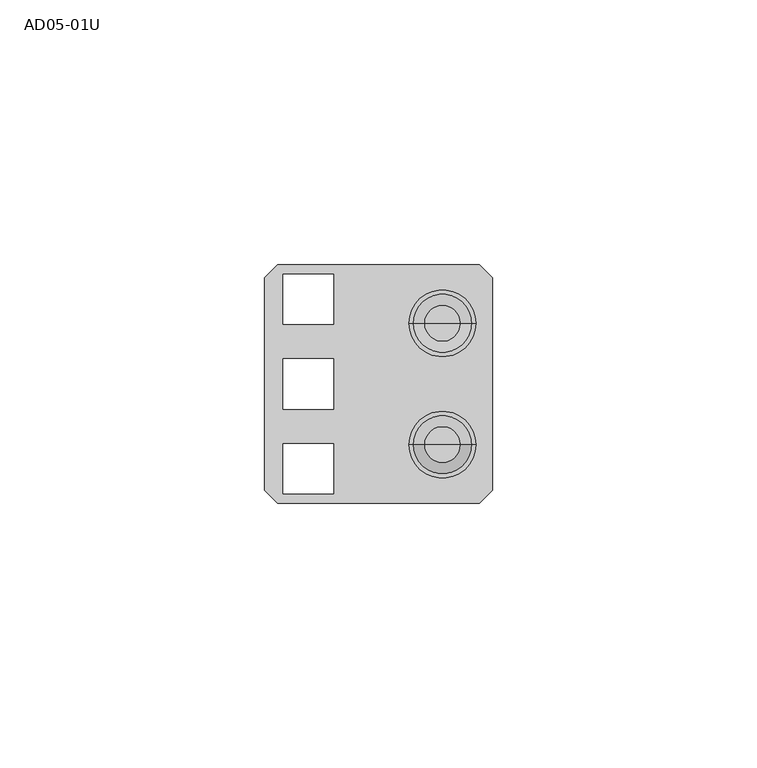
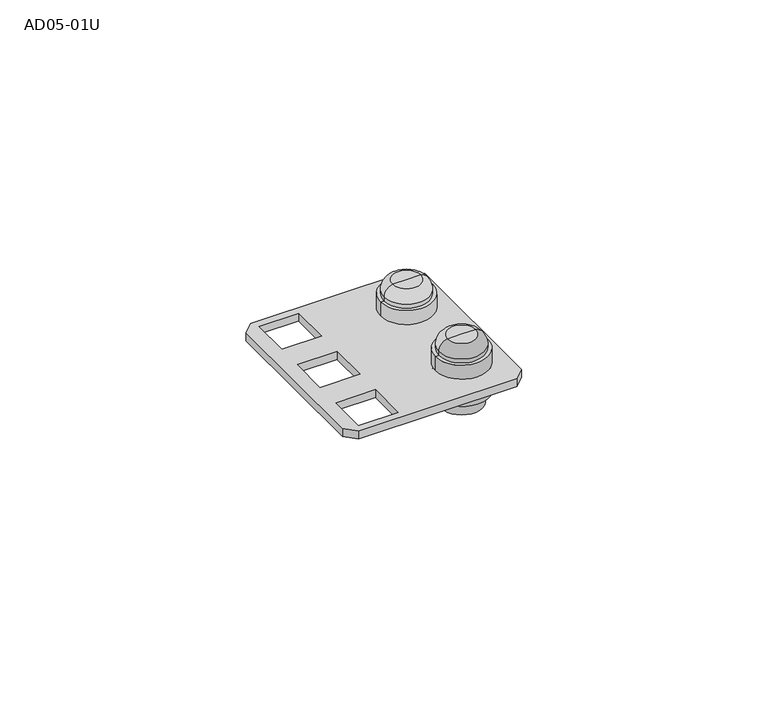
"""IFC4 building model written with IfcOpenShell, lengths in millimetres: proxy geometry, Переходник : AD05-01U."""

import ifcopenshell
import ifcopenshell.guid

model = None  # the IFC model being written
_history = None  # IfcOwnerHistory: only IFC2X3 demands one
_inside = {}  # id of a spatial element -> (the spatial element, [elements in it])
_under = {}  # id of a project, library or spatial element -> (it, [spatial elements below it])
_declared = {}  # id of a project -> (the project, [libraries it declares])
_typed = {}  # id of a type object -> (the type object, [elements of that type])
_made_of = {}  # id of a material, layer set ... -> (it, [elements and type objects made of it])


def new_model(schema):
    """Start an empty IFC model of exactly this schema.

    Asked for "IFC4X3", IfcOpenShell would pick the latest addendum, in which some entities
    have other attributes; the version numbers below select the first issue.
    IFC2X3 requires an IfcOwnerHistory on every rooted entity: one is made here for all.
    """
    global model, _history
    if schema == "IFC4X3":
        model = ifcopenshell.file(schema_version=(4, 3, 0, 0))
    else:
        model = ifcopenshell.file(schema=schema)
    _inside.clear()
    _under.clear()
    _declared.clear()
    _typed.clear()
    _made_of.clear()
    _history = None
    if model.schema == "IFC2X3":
        org = make("IfcOrganization", Name="unknown")
        user = make(
            "IfcPersonAndOrganization",
            ThePerson=make("IfcPerson", FamilyName="unknown"),
            TheOrganization=org,
        )
        app = make(
            "IfcApplication",
            ApplicationDeveloper=org,
            Version="unknown",
            ApplicationFullName="unknown",
            ApplicationIdentifier="unknown",
        )
        _history = make(
            "IfcOwnerHistory",
            OwningUser=user,
            OwningApplication=app,
            ChangeAction="ADDED",
            CreationDate=0,
        )
    return model


def make(cls, **values):
    """One entity of the class cls with the attributes given. An attribute that is None is left unset."""
    return model.create_entity(
        cls, **{name: value for name, value in values.items() if value is not None}
    )


def rooted(cls, **values):
    """An entity with a GlobalId (a new one), such as an element, a storey or a relation."""
    return make(cls, GlobalId=ifcopenshell.guid.new(), OwnerHistory=_history, **values)


def si_unit(unit_type, name, prefix=None):
    """IfcSIUnit, for example si_unit("LENGTHUNIT", "METRE", prefix="MILLI")."""
    return make("IfcSIUnit", UnitType=unit_type, Prefix=prefix, Name=name)


def assignment(units):
    """IfcUnitAssignment: the units of a project."""
    return None if units is None else make("IfcUnitAssignment", Units=units)


def point(xyz):
    """IfcCartesianPoint."""
    return None if xyz is None else make("IfcCartesianPoint", Coordinates=xyz)


def direction(xyz):
    """IfcDirection."""
    return None if xyz is None else make("IfcDirection", DirectionRatios=xyz)


def frame(location, z_axis=None, x_axis=None):
    """IfcAxis2Placement3D, a coordinate frame: its origin and axes. An axis left out is left unset."""
    return make(
        "IfcAxis2Placement3D",
        Location=point(location),
        Axis=direction(z_axis),
        RefDirection=direction(x_axis),
    )


def frame_2d(location, x_axis=None):
    """IfcAxis2Placement2D, a coordinate frame in the plane: its origin and x axis."""
    return make(
        "IfcAxis2Placement2D", Location=point(location), RefDirection=direction(x_axis)
    )


def origin():
    """The frame at (0, 0, 0) with its axes left unset."""
    return frame((0.0, 0.0, 0.0))


def origin_with_axes():
    """The frame at (0, 0, 0) with the z axis (0, 0, 1) and the x axis (1, 0, 0) written out."""
    return frame((0.0, 0.0, 0.0), z_axis=(0.0, 0.0, 1.0), x_axis=(1.0, 0.0, 0.0))


def place(relative_to, where):
    """IfcLocalPlacement: puts the frame where relative to a parent placement (None: the world)."""
    return make(
        "IfcLocalPlacement", PlacementRelTo=relative_to, RelativePlacement=where
    )


def context(
    kind, dimensions, precision=None, world=None, true_north=None, identifier=None
):
    """IfcGeometricRepresentationContext, for example the 3D "Model" context."""
    return make(
        "IfcGeometricRepresentationContext",
        ContextIdentifier=identifier,
        ContextType=kind,
        CoordinateSpaceDimension=dimensions,
        Precision=precision,
        WorldCoordinateSystem=world,
        TrueNorth=true_north,
    )


def project(units=None, contexts=None):
    """IfcProject with its units and contexts."""
    return rooted(
        "IfcProject",
        Name="project",
        RepresentationContexts=contexts,
        UnitsInContext=assignment(units),
    )


def spatial(cls, under=None, at=None, **own):
    """A site, building, storey or space (cls), placed at a placement, below another one or the project."""
    s = rooted(cls, ObjectPlacement=at, **own)
    if under is not None:
        _under.setdefault(under.id(), (under, []))[1].append(s)
    return s


def polyline(points):
    """IfcPolyline through the points."""
    return make("IfcPolyline", Points=[point(p) for p in points])


def circle_curve(where, radius):
    """IfcCircle in the frame where."""
    return make("IfcCircle", Position=where, Radius=radius)


def ellipse_curve(where, semi_axis1, semi_axis2):
    """IfcEllipse in the frame where."""
    return make(
        "IfcEllipse", Position=where, SemiAxis1=semi_axis1, SemiAxis2=semi_axis2
    )


def trimmed(basis, trim1, trim2, sense, master):
    """IfcTrimmedCurve: the piece of a basis curve between two trims."""
    return make(
        "IfcTrimmedCurve",
        BasisCurve=basis,
        Trim1=trim1,
        Trim2=trim2,
        SenseAgreement=sense,
        MasterRepresentation=master,
    )


def segment(curve, same_sense, transition):
    """IfcCompositeCurveSegment."""
    return make(
        "IfcCompositeCurveSegment",
        Transition=transition,
        SameSense=same_sense,
        ParentCurve=curve,
    )


def composite_curve(segments, self_intersect=None):
    """IfcCompositeCurve: segments joined end to end."""
    return make("IfcCompositeCurve", Segments=segments, SelfIntersect=self_intersect)


def outline(outer, holes=None, kind="AREA"):
    """IfcArbitraryClosedProfileDef: a profile drawn as a closed curve; with holes, ...WithVoids."""
    if holes is None:
        return make("IfcArbitraryClosedProfileDef", ProfileType=kind, OuterCurve=outer)
    return make(
        "IfcArbitraryProfileDefWithVoids",
        ProfileType=kind,
        OuterCurve=outer,
        InnerCurves=holes,
    )


def extrude(swept, where, along, depth):
    """IfcExtrudedAreaSolid: the profile swept, set in the frame where, extruded along a direction by depth."""
    return make(
        "IfcExtrudedAreaSolid",
        SweptArea=swept,
        Position=where,
        ExtrudedDirection=direction(along),
        Depth=depth,
    )


def shape(context_of_items, identifier, shape_type, items):
    """IfcShapeRepresentation: the items that make up one representation, for example the "Body"."""
    return make(
        "IfcShapeRepresentation",
        ContextOfItems=context_of_items,
        RepresentationIdentifier=identifier,
        RepresentationType=shape_type,
        Items=items,
    )


def source(mapping_origin, context_of_items, identifier, shape_type, items):
    """IfcRepresentationMap: a shape defined once, which mapped items show again and again."""
    return make(
        "IfcRepresentationMap",
        MappingOrigin=mapping_origin,
        MappedRepresentation=shape(context_of_items, identifier, shape_type, items),
    )


def transform(
    local_origin,
    x_axis=None,
    y_axis=None,
    z_axis=None,
    scale=None,
    scale2=None,
    scale3=None,
    uniform=True,
):
    """IfcCartesianTransformationOperator3D, or its non-uniform kind. x_axis, y_axis, z_axis: its Axis1, 2, 3."""
    if uniform:
        return make(
            "IfcCartesianTransformationOperator3D",
            Axis1=direction(x_axis),
            Axis2=direction(y_axis),
            LocalOrigin=point(local_origin),
            Scale=scale,
            Axis3=direction(z_axis),
        )
    return make(
        "IfcCartesianTransformationOperator3DnonUniform",
        Axis1=direction(x_axis),
        Axis2=direction(y_axis),
        LocalOrigin=point(local_origin),
        Scale=scale,
        Axis3=direction(z_axis),
        Scale2=scale2,
        Scale3=scale3,
    )


def mapped(mapping_source, mapping_target):
    """IfcMappedItem: shows the shape of a source again, moved by a transform."""
    return make(
        "IfcMappedItem", MappingSource=mapping_source, MappingTarget=mapping_target
    )


def made_of(thing, what):
    """Note that an element or type object is made of a material, layer set ...; save() writes the relation."""
    if what is not None:
        _made_of.setdefault(what.id(), (what, []))[1].append(thing)
    return thing


def element(
    cls,
    number,
    at=None,
    inside=None,
    cuts=None,
    type_object=None,
    material=None,
    context=None,
    identifier="Body",
    shape_type=None,
    held_by="IfcProductDefinitionShape",
    body=None,
    shapes=None,
    **own,
):
    """One element of the class cls, such as IfcWall. Its Tag is "e" and its number.

    at: its placement. inside: the storey or other place that contains it. cuts: it is an
    opening in that element (IfcRelVoidsElement). A single representation is given by context,
    identifier, shape_type and body (its items); several are given by shapes. held_by: the class
    of the entity that holds the representations. save() writes the other relations.
    """
    e = rooted(cls, Tag="e%d" % number, ObjectPlacement=at, **own)
    if body is not None:
        shapes = [shape(context, identifier, shape_type, body)]
    if shapes is not None:
        e.Representation = make(held_by, Representations=shapes)
    if inside is not None:
        _inside.setdefault(inside.id(), (inside, []))[1].append(e)
    if cuts is not None:
        rooted(
            "IfcRelVoidsElement", RelatingBuildingElement=cuts, RelatedOpeningElement=e
        )
    if type_object is not None:
        _typed.setdefault(type_object.id(), (type_object, []))[1].append(e)
    return made_of(e, material)


def aggregate(whole, parts):
    """IfcRelAggregates: a whole, such as a stair, and the parts it consists of."""
    return rooted("IfcRelAggregates", RelatingObject=whole, RelatedObjects=parts)


def save(model, path):
    """Write the relations noted so far, then the file.

    IfcRelAggregates (storeys below a building ...), IfcRelContainedInSpatialStructure (elements
    in a storey), IfcRelDefinesByType, IfcRelAssociatesMaterial and IfcRelDeclares: one each for
    every whole, place, type object, material and project.
    """
    for whole, parts in _under.values():
        aggregate(whole, parts)
    for where, things in _inside.values():
        rooted(
            "IfcRelContainedInSpatialStructure",
            RelatedElements=things,
            RelatingStructure=where,
        )
    for kind, things in _typed.values():
        rooted("IfcRelDefinesByType", RelatedObjects=things, RelatingType=kind)
    for what, things in _made_of.values():
        rooted("IfcRelAssociatesMaterial", RelatedObjects=things, RelatingMaterial=what)
    for by, libraries in _declared.values():
        rooted("IfcRelDeclares", RelatingContext=by, RelatedDefinitions=libraries)
    model.write(path)


def plane_surface(at):
    """IfcPlane: the flat surface through the origin of the frame at, square to its z axis."""
    return make("IfcPlane", Position=at)


def cylinder_surface(at, radius):
    """IfcCylindricalSurface: all points at the distance radius from the z axis of the frame at."""
    return make("IfcCylindricalSurface", Position=at, Radius=radius)


def revolved_surface(curve, axis_point, axis_direction):
    """IfcSurfaceOfRevolution: the curve turned about the line through axis_point along axis_direction."""
    return make(
        "IfcSurfaceOfRevolution",
        SweptCurve=make("IfcArbitraryOpenProfileDef", ProfileType="CURVE", Curve=curve),
        AxisPosition=make("IfcAxis1Placement", Location=point(axis_point), Axis=direction(axis_direction)),
    )


def advanced_brep(points, edges, surfaces, faces):
    """IfcAdvancedBrep: a solid bounded by faces that lie on surfaces and meet in shared edges.

    An edge is (start, end): straight between two places in points (the first is 0);
    or (start, end, curve); or (start, end, curve, False) where it runs against its curve.
    A face is (place in surfaces, loops), or (place, loops, False) where it looks against
    its surface's normal. A loop lists edges by number (the first is 1), with a minus sign
    where the edge is run from its end to its start. The first loop is the outer one.
    """
    corners = [point(p) for p in points]
    vertices = [make("IfcVertexPoint", VertexGeometry=c) for c in corners]
    made = []
    for start, end, *more in edges:
        made.append(
            make(
                "IfcEdgeCurve",
                EdgeStart=vertices[start],
                EdgeEnd=vertices[end],
                EdgeGeometry=more[0] if more else make("IfcPolyline", Points=[corners[start], corners[end]]),
                SameSense=more[1] if len(more) > 1 else True,
            )
        )
    hull = []
    for where, loops, *sense in faces:
        bounds = []
        for j, loop in enumerate(loops):
            ring = [make("IfcOrientedEdge", EdgeElement=made[abs(k) - 1], Orientation=k > 0) for k in loop]
            bounds.append(
                make(
                    "IfcFaceOuterBound" if j == 0 else "IfcFaceBound",
                    Bound=make("IfcEdgeLoop", EdgeList=ring),
                    Orientation=True,
                )
            )
        hull.append(make("IfcAdvancedFace", Bounds=bounds, FaceSurface=surfaces[where], SameSense=sense[0] if sense else True))
    return make("IfcAdvancedBrep", Outer=make("IfcClosedShell", CfsFaces=hull))


def ad05_01u_ed793cdc(model_context):
    return source(origin(), model_context, "Body", "SolidModel", [
        advanced_brep(
        [(12.0893569, 11.4643569, -8.0), (7.0893569, 11.4643569, -8.0), (17.0893569, 11.4643569, -8.0), (7.0893569, 11.4643569, -4.6617259), (17.0893569, 11.4643569, -4.6617259), (5.3893569, 11.4643569, -4.6617259), (18.7893569, 11.4643569, -4.6617259), (5.3893569, 11.4643569, -1.8016631), (18.7893569, 11.4643569, -1.8016631), (6.2393569, 11.4643569, -0.8570384), (17.9393569, 11.4643569, -0.8570384), (7.0893569, 11.4643569, -0.8570384), (17.0893569, 11.4643569, -0.8570384), (7.0893569, 11.4643569, 0.0), (17.0893569, 11.4643569, 0.0), (9.1592205, 11.4643569, 0.0), (15.0194933, 11.4643569, 0.0), (9.1592205, 11.4643569, 2.0), (15.0194933, 11.4643569, 2.0), (5.7893569, 11.4643569, 2.0), (18.3893569, 11.4643569, 2.0), (5.7893569, 11.4643569, 5.5), (18.3893569, 11.4643569, 5.5), (6.6262245, 11.4643569, 5.5), (17.5524894, 11.4643569, 5.5), (6.6262245, 11.4643569, 6.5), (17.5524894, 11.4643569, 6.5), (8.6635747, 11.4643569, 9.0), (15.5151392, 11.4643569, 9.0), (12.0893569, 11.4643569, 9.0)],
        [
            (0, 1),
            (1, 2, circle_curve(frame((12.0893569, 11.4643569, -8.0), z_axis=(0.0, 0.0, -1.0), x_axis=(-1.0, 0.0, 0.0)), 5.0)),
            (2, 0),
            (2, 1, circle_curve(frame((12.0893569, 11.4643569, -8.0), z_axis=(0.0, 0.0, -1.0), x_axis=(-1.0, 0.0, 0.0)), 5.0)),
            (1, 3),
            (3, 4, circle_curve(frame((12.0893569, 11.4643569, -4.6617259), z_axis=(0.0, 0.0, -1.0), x_axis=(-1.0, 0.0, 0.0)), 5.0)),
            (4, 2),
            (4, 3, circle_curve(frame((12.0893569, 11.4643569, -4.6617259), z_axis=(0.0, 0.0, -1.0), x_axis=(-1.0, 0.0, 0.0)), 5.0)),
            (3, 5),
            (5, 6, circle_curve(frame((12.0893569, 11.4643569, -4.6617259), z_axis=(0.0, 0.0, -1.0), x_axis=(-1.0, 0.0, 0.0)), 6.7)),
            (6, 4),
            (6, 5, circle_curve(frame((12.0893569, 11.4643569, -4.6617259), z_axis=(0.0, 0.0, -1.0), x_axis=(-1.0, 0.0, 0.0)), 6.7)),
            (5, 7),
            (7, 8, circle_curve(frame((12.0893569, 11.4643569, -1.8016631), z_axis=(0.0, 0.0, -1.0), x_axis=(-1.0, 0.0, 0.0)), 6.7)),
            (8, 6),
            (8, 7, circle_curve(frame((12.0893569, 11.4643569, -1.8016631), z_axis=(0.0, 0.0, -1.0), x_axis=(-1.0, 0.0, 0.0)), 6.7)),
            (7, 9, circle_curve(frame((6.2393569, 11.4643569, -1.7117778), z_axis=(0.0, 1.0, 0.0), x_axis=(-1.0, 0.0, 0.0)), 0.8547394)),
            (9, 10, circle_curve(frame((12.0893569, 11.4643569, -0.8570384), z_axis=(0.0, 0.0, -1.0), x_axis=(-1.0, 0.0, 0.0)), 5.85)),
            (10, 8, circle_curve(frame((17.9393569, 11.4643569, -1.7117778), z_axis=(0.0, 1.0, 0.0), x_axis=(1.0, 0.0, 0.0)), 0.8547394)),
            (10, 9, circle_curve(frame((12.0893569, 11.4643569, -0.8570384), z_axis=(0.0, 0.0, -1.0), x_axis=(-1.0, 0.0, 0.0)), 5.85)),
            (9, 11),
            (11, 12, circle_curve(frame((12.0893569, 11.4643569, -0.8570384), z_axis=(0.0, 0.0, -1.0), x_axis=(-1.0, 0.0, 0.0)), 5.0)),
            (12, 10),
            (12, 11, circle_curve(frame((12.0893569, 11.4643569, -0.8570384), z_axis=(0.0, 0.0, -1.0), x_axis=(-1.0, 0.0, 0.0)), 5.0)),
            (11, 13),
            (13, 14, circle_curve(frame((12.0893569, 11.4643569, 0.0), z_axis=(0.0, 0.0, -1.0), x_axis=(-1.0, 0.0, 0.0)), 5.0)),
            (14, 12),
            (14, 13, circle_curve(frame((12.0893569, 11.4643569, 0.0), z_axis=(0.0, 0.0, -1.0), x_axis=(-1.0, 0.0, 0.0)), 5.0)),
            (13, 15),
            (15, 16, circle_curve(frame((12.0893569, 11.4643569, 0.0), z_axis=(0.0, 0.0, -1.0), x_axis=(-1.0, 0.0, 0.0)), 2.9301364)),
            (16, 14),
            (16, 15, circle_curve(frame((12.0893569, 11.4643569, 0.0), z_axis=(0.0, 0.0, -1.0), x_axis=(-1.0, 0.0, 0.0)), 2.9301364)),
            (15, 17),
            (17, 18, circle_curve(frame((12.0893569, 11.4643569, 2.0), z_axis=(0.0, 0.0, -1.0), x_axis=(-1.0, 0.0, 0.0)), 2.9301364)),
            (18, 16),
            (18, 17, circle_curve(frame((12.0893569, 11.4643569, 2.0), z_axis=(0.0, 0.0, -1.0), x_axis=(-1.0, 0.0, 0.0)), 2.9301364)),
            (17, 19),
            (19, 20, circle_curve(frame((12.0893569, 11.4643569, 2.0), z_axis=(0.0, 0.0, -1.0), x_axis=(-1.0, 0.0, 0.0)), 6.3)),
            (20, 18),
            (20, 19, circle_curve(frame((12.0893569, 11.4643569, 2.0), z_axis=(0.0, 0.0, -1.0), x_axis=(-1.0, 0.0, 0.0)), 6.3)),
            (19, 21),
            (21, 22, circle_curve(frame((12.0893569, 11.4643569, 5.5), z_axis=(0.0, 0.0, -1.0), x_axis=(-1.0, 0.0, 0.0)), 6.3)),
            (22, 20),
            (22, 21, circle_curve(frame((12.0893569, 11.4643569, 5.5), z_axis=(0.0, 0.0, -1.0), x_axis=(-1.0, 0.0, 0.0)), 6.3)),
            (21, 23),
            (23, 24, circle_curve(frame((12.0893569, 11.4643569, 5.5), z_axis=(0.0, 0.0, -1.0), x_axis=(-1.0, 0.0, 0.0)), 5.4631325)),
            (24, 22),
            (24, 23, circle_curve(frame((12.0893569, 11.4643569, 5.5), z_axis=(0.0, 0.0, -1.0), x_axis=(-1.0, 0.0, 0.0)), 5.4631325)),
            (23, 25),
            (25, 26, circle_curve(frame((12.0893569, 11.4643569, 6.5), z_axis=(0.0, 0.0, -1.0), x_axis=(-1.0, 0.0, 0.0)), 5.4631325)),
            (26, 24),
            (26, 25, circle_curve(frame((12.0893569, 11.4643569, 6.5), z_axis=(0.0, 0.0, -1.0), x_axis=(-1.0, 0.0, 0.0)), 5.4631325)),
            (25, 27, circle_curve(frame((9.1787547, 11.4643569, 6.5), z_axis=(0.0, 1.0, 0.0), x_axis=(-1.0, 0.0, 0.0)), 2.5525302)),
            (27, 28, circle_curve(frame((12.0893569, 11.4643569, 9.0), z_axis=(0.0, 0.0, -1.0), x_axis=(-1.0, 0.0, 0.0)), 3.4257822)),
            (28, 26, circle_curve(frame((14.9999592, 11.4643569, 6.5), z_axis=(0.0, 1.0, 0.0), x_axis=(1.0, 0.0, 0.0)), 2.5525302)),
            (28, 27, circle_curve(frame((12.0893569, 11.4643569, 9.0), z_axis=(0.0, 0.0, -1.0), x_axis=(-1.0, 0.0, 0.0)), 3.4257822)),
            (27, 29),
            (29, 28),
        ],
        [
            plane_surface(frame((12.0893569, 11.4643569, -8.0), z_axis=(0.0, 0.0, -1.0), x_axis=(-1.0, 0.0, 0.0))),
            cylinder_surface(frame((12.0893569, 11.4643569, 9.0), z_axis=(0.0, 0.0, -1.0), x_axis=(-1.0, 0.0, 0.0)), 5.0),
            plane_surface(frame((12.0893569, 11.4643569, -4.6617259), z_axis=(0.0, 0.0, -1.0), x_axis=(-1.0, 0.0, 0.0))),
            cylinder_surface(frame((12.0893569, 11.4643569, 9.0), z_axis=(0.0, 0.0, -1.0), x_axis=(-1.0, 0.0, 0.0)), 6.7),
            revolved_surface(trimmed(ellipse_curve(frame((6.2393569, 11.4643569, -1.7117778), z_axis=(0.0, -1.0, 0.0), x_axis=(-1.0, 0.0, 0.0)), 0.8547394, 0.8547394), [point((6.2393569, 11.4643569, -0.8570384))], [point((5.3893569, 11.4643569, -1.8016631))], True, "CARTESIAN"), (12.0893569, 11.4643569, 9.0), (0.0, 0.0, -1.0)),
            plane_surface(frame((12.0893569, 11.4643569, -0.8570384), z_axis=(0.0, 0.0, 1.0), x_axis=(-1.0, 0.0, 0.0))),
            plane_surface(frame((12.0893569, 11.4643569, 0.0), z_axis=(0.0, 0.0, 1.0), x_axis=(-1.0, 0.0, 0.0))),
            cylinder_surface(frame((12.0893569, 11.4643569, 9.0), z_axis=(0.0, 0.0, -1.0), x_axis=(-1.0, 0.0, 0.0)), 2.9301364),
            plane_surface(frame((12.0893569, 11.4643569, 2.0), z_axis=(0.0, 0.0, -1.0), x_axis=(-1.0, 0.0, 0.0))),
            cylinder_surface(frame((12.0893569, 11.4643569, 9.0), z_axis=(0.0, 0.0, -1.0), x_axis=(-1.0, 0.0, 0.0)), 6.3),
            plane_surface(frame((12.0893569, 11.4643569, 5.5), z_axis=(0.0, 0.0, 1.0), x_axis=(-1.0, 0.0, 0.0))),
            cylinder_surface(frame((12.0893569, 11.4643569, 9.0), z_axis=(0.0, 0.0, -1.0), x_axis=(-1.0, 0.0, 0.0)), 5.4631325),
            revolved_surface(trimmed(ellipse_curve(frame((9.1787547, 11.4643569, 6.5), z_axis=(0.0, -1.0, 0.0), x_axis=(-1.0, 0.0, 0.0)), 2.5525302, 2.5525302), [point((8.6635747, 11.4643569, 9.0))], [point((6.6262245, 11.4643569, 6.5))], True, "CARTESIAN"), (12.0893569, 11.4643569, 9.0), (0.0, 0.0, -1.0)),
            plane_surface(frame((12.0893569, 11.4643569, 9.0), z_axis=(0.0, 0.0, 1.0), x_axis=(-1.0, 0.0, 0.0))),
        ],
        [
            (0, [[1, 2, 3]]),
            (0, [[-3, 4, -1]]),
            (1, [[-2, 5, 6, 7]]),
            (1, [[-4, -7, 8, -5]]),
            (2, [[-6, 9, 10, 11]]),
            (2, [[-8, -11, 12, -9]]),
            (3, [[-10, 13, 14, 15]]),
            (3, [[-12, -15, 16, -13]]),
            (4, [[-14, 17, 18, 19]]),
            (4, [[-16, -19, 20, -17]]),
            (5, [[-18, 21, 22, 23]]),
            (5, [[-20, -23, 24, -21]]),
            (1, [[-22, 25, 26, 27]]),
            (1, [[-24, -27, 28, -25]]),
            (6, [[-26, 29, 30, 31]]),
            (6, [[-28, -31, 32, -29]]),
            (7, [[-30, 33, 34, 35]]),
            (7, [[-32, -35, 36, -33]]),
            (8, [[-34, 37, 38, 39]]),
            (8, [[-36, -39, 40, -37]]),
            (9, [[-38, 41, 42, 43]]),
            (9, [[-40, -43, 44, -41]]),
            (10, [[-42, 45, 46, 47]]),
            (10, [[-44, -47, 48, -45]]),
            (11, [[-46, 49, 50, 51]]),
            (11, [[-48, -51, 52, -49]]),
            (12, [[-50, 53, 54, 55]]),
            (12, [[-52, -55, 56, -53]]),
            (13, [[-54, 57, 58]]),
            (13, [[-56, -58, -57]]),
        ],
    ),
        advanced_brep(
        [(17.0893569, -11.4643569, -8.0), (7.0893569, -11.4643569, -8.0), (12.0893569, -11.4643569, -8.0), (17.0893569, -11.4643569, -4.6617259), (7.0893569, -11.4643569, -4.6617259), (18.7893569, -11.4643569, -4.6617259), (5.3893569, -11.4643569, -4.6617259), (18.7893569, -11.4643569, -1.8016631), (5.3893569, -11.4643569, -1.8016631), (17.9393569, -11.4643569, -0.8570384), (6.2393569, -11.4643569, -0.8570384), (17.0893569, -11.4643569, -0.8570384), (7.0893569, -11.4643569, -0.8570384), (17.0893569, -11.4643569, 0.0), (7.0893569, -11.4643569, 0.0), (15.0194933, -11.4643569, 0.0), (9.1592205, -11.4643569, 0.0), (15.0194933, -11.4643569, 2.0), (9.1592205, -11.4643569, 2.0), (18.3893569, -11.4643569, 2.0), (5.7893569, -11.4643569, 2.0), (18.3893569, -11.4643569, 5.5), (5.7893569, -11.4643569, 5.5), (17.5524894, -11.4643569, 5.5), (6.6262245, -11.4643569, 5.5), (17.5524894, -11.4643569, 6.5), (6.6262245, -11.4643569, 6.5), (15.5151392, -11.4643569, 9.0), (8.6635747, -11.4643569, 9.0), (12.0893569, -11.4643569, 9.0)],
        [
            (0, 1, circle_curve(frame((12.0893569, -11.4643569, -8.0), z_axis=(0.0, 0.0, -1.0), x_axis=(-1.0, 0.0, 0.0)), 5.0)),
            (1, 2),
            (2, 0),
            (1, 0, circle_curve(frame((12.0893569, -11.4643569, -8.0), z_axis=(0.0, 0.0, -1.0), x_axis=(-1.0, 0.0, 0.0)), 5.0)),
            (3, 4, circle_curve(frame((12.0893569, -11.4643569, -4.6617259), z_axis=(0.0, 0.0, -1.0), x_axis=(-1.0, 0.0, 0.0)), 5.0)),
            (4, 1),
            (0, 3),
            (4, 3, circle_curve(frame((12.0893569, -11.4643569, -4.6617259), z_axis=(0.0, 0.0, -1.0), x_axis=(-1.0, 0.0, 0.0)), 5.0)),
            (5, 6, circle_curve(frame((12.0893569, -11.4643569, -4.6617259), z_axis=(0.0, 0.0, -1.0), x_axis=(-1.0, 0.0, 0.0)), 6.7)),
            (6, 4),
            (3, 5),
            (6, 5, circle_curve(frame((12.0893569, -11.4643569, -4.6617259), z_axis=(0.0, 0.0, -1.0), x_axis=(-1.0, 0.0, 0.0)), 6.7)),
            (7, 8, circle_curve(frame((12.0893569, -11.4643569, -1.8016631), z_axis=(0.0, 0.0, -1.0), x_axis=(-1.0, 0.0, 0.0)), 6.7)),
            (8, 6),
            (5, 7),
            (8, 7, circle_curve(frame((12.0893569, -11.4643569, -1.8016631), z_axis=(0.0, 0.0, -1.0), x_axis=(-1.0, 0.0, 0.0)), 6.7)),
            (9, 10, circle_curve(frame((12.0893569, -11.4643569, -0.8570384), z_axis=(0.0, 0.0, -1.0), x_axis=(-1.0, 0.0, 0.0)), 5.85)),
            (10, 8, circle_curve(frame((6.2393569, -11.4643569, -1.7117778), z_axis=(0.0, -1.0, 0.0), x_axis=(-1.0, 0.0, 0.0)), 0.8547394)),
            (7, 9, circle_curve(frame((17.9393569, -11.4643569, -1.7117778), z_axis=(0.0, -1.0, 0.0), x_axis=(1.0, 0.0, 0.0)), 0.8547394)),
            (10, 9, circle_curve(frame((12.0893569, -11.4643569, -0.8570384), z_axis=(0.0, 0.0, -1.0), x_axis=(-1.0, 0.0, 0.0)), 5.85)),
            (11, 12, circle_curve(frame((12.0893569, -11.4643569, -0.8570384), z_axis=(0.0, 0.0, -1.0), x_axis=(-1.0, 0.0, 0.0)), 5.0)),
            (12, 10),
            (9, 11),
            (12, 11, circle_curve(frame((12.0893569, -11.4643569, -0.8570384), z_axis=(0.0, 0.0, -1.0), x_axis=(-1.0, 0.0, 0.0)), 5.0)),
            (13, 14, circle_curve(frame((12.0893569, -11.4643569, 0.0), z_axis=(0.0, 0.0, -1.0), x_axis=(-1.0, 0.0, 0.0)), 5.0)),
            (14, 12),
            (11, 13),
            (14, 13, circle_curve(frame((12.0893569, -11.4643569, 0.0), z_axis=(0.0, 0.0, -1.0), x_axis=(-1.0, 0.0, 0.0)), 5.0)),
            (15, 16, circle_curve(frame((12.0893569, -11.4643569, 0.0), z_axis=(0.0, 0.0, -1.0), x_axis=(-1.0, 0.0, 0.0)), 2.9301364)),
            (16, 14),
            (13, 15),
            (16, 15, circle_curve(frame((12.0893569, -11.4643569, 0.0), z_axis=(0.0, 0.0, -1.0), x_axis=(-1.0, 0.0, 0.0)), 2.9301364)),
            (17, 18, circle_curve(frame((12.0893569, -11.4643569, 2.0), z_axis=(0.0, 0.0, -1.0), x_axis=(-1.0, 0.0, 0.0)), 2.9301364)),
            (18, 16),
            (15, 17),
            (18, 17, circle_curve(frame((12.0893569, -11.4643569, 2.0), z_axis=(0.0, 0.0, -1.0), x_axis=(-1.0, 0.0, 0.0)), 2.9301364)),
            (19, 20, circle_curve(frame((12.0893569, -11.4643569, 2.0), z_axis=(0.0, 0.0, -1.0), x_axis=(-1.0, 0.0, 0.0)), 6.3)),
            (20, 18),
            (17, 19),
            (20, 19, circle_curve(frame((12.0893569, -11.4643569, 2.0), z_axis=(0.0, 0.0, -1.0), x_axis=(-1.0, 0.0, 0.0)), 6.3)),
            (21, 22, circle_curve(frame((12.0893569, -11.4643569, 5.5), z_axis=(0.0, 0.0, -1.0), x_axis=(-1.0, 0.0, 0.0)), 6.3)),
            (22, 20),
            (19, 21),
            (22, 21, circle_curve(frame((12.0893569, -11.4643569, 5.5), z_axis=(0.0, 0.0, -1.0), x_axis=(-1.0, 0.0, 0.0)), 6.3)),
            (23, 24, circle_curve(frame((12.0893569, -11.4643569, 5.5), z_axis=(0.0, 0.0, -1.0), x_axis=(-1.0, 0.0, 0.0)), 5.4631325)),
            (24, 22),
            (21, 23),
            (24, 23, circle_curve(frame((12.0893569, -11.4643569, 5.5), z_axis=(0.0, 0.0, -1.0), x_axis=(-1.0, 0.0, 0.0)), 5.4631325)),
            (25, 26, circle_curve(frame((12.0893569, -11.4643569, 6.5), z_axis=(0.0, 0.0, -1.0), x_axis=(-1.0, 0.0, 0.0)), 5.4631325)),
            (26, 24),
            (23, 25),
            (26, 25, circle_curve(frame((12.0893569, -11.4643569, 6.5), z_axis=(0.0, 0.0, -1.0), x_axis=(-1.0, 0.0, 0.0)), 5.4631325)),
            (27, 28, circle_curve(frame((12.0893569, -11.4643569, 9.0), z_axis=(0.0, 0.0, -1.0), x_axis=(-1.0, 0.0, 0.0)), 3.4257822)),
            (28, 26, circle_curve(frame((9.1787547, -11.4643569, 6.5), z_axis=(0.0, -1.0, 0.0), x_axis=(-1.0, 0.0, 0.0)), 2.5525302)),
            (25, 27, circle_curve(frame((14.9999592, -11.4643569, 6.5), z_axis=(0.0, -1.0, 0.0), x_axis=(1.0, 0.0, 0.0)), 2.5525302)),
            (28, 27, circle_curve(frame((12.0893569, -11.4643569, 9.0), z_axis=(0.0, 0.0, -1.0), x_axis=(-1.0, 0.0, 0.0)), 3.4257822)),
            (29, 28),
            (27, 29),
        ],
        [
            plane_surface(frame((12.0893569, -11.4643569, -8.0), z_axis=(0.0, 0.0, -1.0), x_axis=(-1.0, 0.0, 0.0))),
            cylinder_surface(frame((12.0893569, -11.4643569, 9.0), z_axis=(0.0, 0.0, 1.0), x_axis=(-1.0, 0.0, 0.0)), 5.0),
            plane_surface(frame((12.0893569, -11.4643569, -4.6617259), z_axis=(0.0, 0.0, -1.0), x_axis=(-1.0, 0.0, 0.0))),
            cylinder_surface(frame((12.0893569, -11.4643569, 9.0), z_axis=(0.0, 0.0, 1.0), x_axis=(-1.0, 0.0, 0.0)), 6.7),
            revolved_surface(trimmed(ellipse_curve(frame((6.2393569, -11.4643569, -1.7117778), z_axis=(0.0, 1.0, 0.0), x_axis=(-1.0, 0.0, 0.0)), 0.8547394, 0.8547394), [point((5.3893569, -11.4643569, -1.8016631))], [point((6.2393569, -11.4643569, -0.8570384))], True, "CARTESIAN"), (12.0893569, -11.4643569, 9.0), (0.0, 0.0, 1.0)),
            plane_surface(frame((12.0893569, -11.4643569, -0.8570384), z_axis=(0.0, 0.0, 1.0), x_axis=(-1.0, 0.0, 0.0))),
            plane_surface(frame((12.0893569, -11.4643569, 0.0), z_axis=(0.0, 0.0, 1.0), x_axis=(-1.0, 0.0, 0.0))),
            cylinder_surface(frame((12.0893569, -11.4643569, 9.0), z_axis=(0.0, 0.0, 1.0), x_axis=(-1.0, 0.0, 0.0)), 2.9301364),
            plane_surface(frame((12.0893569, -11.4643569, 2.0), z_axis=(0.0, 0.0, -1.0), x_axis=(-1.0, 0.0, 0.0))),
            cylinder_surface(frame((12.0893569, -11.4643569, 9.0), z_axis=(0.0, 0.0, 1.0), x_axis=(-1.0, 0.0, 0.0)), 6.3),
            plane_surface(frame((12.0893569, -11.4643569, 5.5), z_axis=(0.0, 0.0, 1.0), x_axis=(-1.0, 0.0, 0.0))),
            cylinder_surface(frame((12.0893569, -11.4643569, 9.0), z_axis=(0.0, 0.0, 1.0), x_axis=(-1.0, 0.0, 0.0)), 5.4631325),
            revolved_surface(trimmed(ellipse_curve(frame((9.1787547, -11.4643569, 6.5), z_axis=(0.0, 1.0, 0.0), x_axis=(-1.0, 0.0, 0.0)), 2.5525302, 2.5525302), [point((6.6262245, -11.4643569, 6.5))], [point((8.6635747, -11.4643569, 9.0))], True, "CARTESIAN"), (12.0893569, -11.4643569, 9.0), (0.0, 0.0, 1.0)),
            plane_surface(frame((12.0893569, -11.4643569, 9.0), z_axis=(0.0, 0.0, 1.0), x_axis=(-1.0, 0.0, 0.0))),
        ],
        [
            (0, [[1, 2, 3]]),
            (0, [[4, -3, -2]]),
            (1, [[5, 6, -1, 7]]),
            (1, [[8, -7, -4, -6]]),
            (2, [[9, 10, -5, 11]]),
            (2, [[12, -11, -8, -10]]),
            (3, [[13, 14, -9, 15]]),
            (3, [[16, -15, -12, -14]]),
            (4, [[17, 18, -13, 19]]),
            (4, [[20, -19, -16, -18]]),
            (5, [[21, 22, -17, 23]]),
            (5, [[24, -23, -20, -22]]),
            (1, [[25, 26, -21, 27]]),
            (1, [[28, -27, -24, -26]]),
            (6, [[29, 30, -25, 31]]),
            (6, [[32, -31, -28, -30]]),
            (7, [[33, 34, -29, 35]]),
            (7, [[36, -35, -32, -34]]),
            (8, [[37, 38, -33, 39]]),
            (8, [[40, -39, -36, -38]]),
            (9, [[41, 42, -37, 43]]),
            (9, [[44, -43, -40, -42]]),
            (10, [[45, 46, -41, 47]]),
            (10, [[48, -47, -44, -46]]),
            (11, [[49, 50, -45, 51]]),
            (11, [[52, -51, -48, -50]]),
            (12, [[53, 54, -49, 55]]),
            (12, [[56, -55, -52, -54]]),
            (13, [[57, -53, 58]]),
            (13, [[-58, -56, -57]]),
        ],
    ),
        extrude(outline(polyline([(-19.0380757, 22.5), (19.0380757, 22.5), (21.5, 20.0380757), (21.5, -20.0380757), (19.0380757, -22.5), (-19.0380757, -22.5), (-21.5, -20.0380757), (-21.5, 20.0380757), (-19.0380757, 22.5)]), holes=[polyline([(-8.5, 20.75), (-18.0, 20.75), (-18.0, 11.25), (-8.5, 11.25), (-8.5, 20.75)]), polyline([(-8.5, 4.75), (-18.0, 4.75), (-18.0, -4.75), (-8.5, -4.75), (-8.5, 4.75)]), polyline([(-8.5, -11.25), (-18.0, -11.25), (-18.0, -20.75), (-8.5, -20.75), (-8.5, -11.25)]), composite_curve([segment(trimmed(circle_curve(frame_2d((12.0342205, 11.4418931)), 3.5), [point((8.5342205, 11.4418931))], [point((15.5342205, 11.4418931))], True, "CARTESIAN"), True, "CONTINUOUS"), segment(trimmed(circle_curve(frame_2d((12.0342205, 11.4418931)), 3.5), [point((15.5342205, 11.4418931))], [point((8.5342205, 11.4418931))], True, "CARTESIAN"), True, "CONTINUOUS")], self_intersect=False), composite_curve([segment(trimmed(circle_curve(frame_2d((12.0342205, -11.4643569)), 3.5), [point((8.5342205, -11.4643569))], [point((15.5342205, -11.4643569))], True, "CARTESIAN"), True, "CONTINUOUS"), segment(trimmed(circle_curve(frame_2d((12.0342205, -11.4643569)), 3.5), [point((15.5342205, -11.4643569))], [point((8.5342205, -11.4643569))], True, "CARTESIAN"), True, "CONTINUOUS")], self_intersect=False)]), origin_with_axes(), (0.0, 0.0, 1.0), 2.0),
    ])


if __name__ == "__main__":
    model = new_model("IFC4")
    model_context = context("Model", 3, world=origin())
    ifc_project = project(units=[si_unit("LENGTHUNIT", "METRE", prefix="MILLI")], contexts=[model_context])
    site = spatial("IfcSite", under=ifc_project)
    building = spatial("IfcBuilding", under=site)
    placement = place(None, origin())
    ad05_01u_shape = ad05_01u_ed793cdc(model_context)
    element("IfcBuildingElementProxy", 1, Name="Переходник : AD05-01U", ObjectType="Переходник : AD05-01U", at=placement, inside=building, context=model_context, shape_type="MappedRepresentation", body=[
        mapped(ad05_01u_shape, transform((0.0, 0.0, 0.0), x_axis=(1.0, 0.0, 0.0), y_axis=(0.0, 1.0, 0.0), z_axis=(0.0, 0.0, 1.0))),
    ])
    save(model, "model.ifc")
